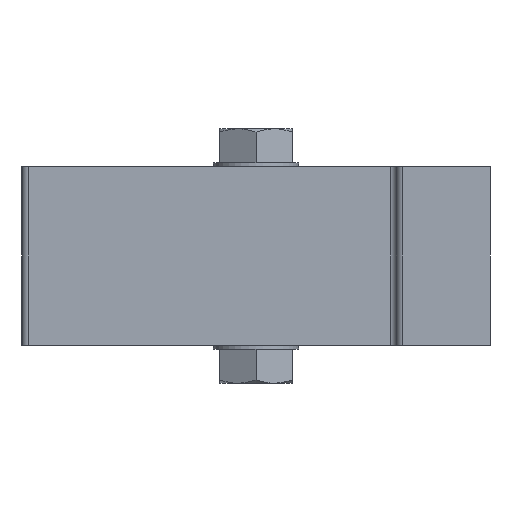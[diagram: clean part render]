
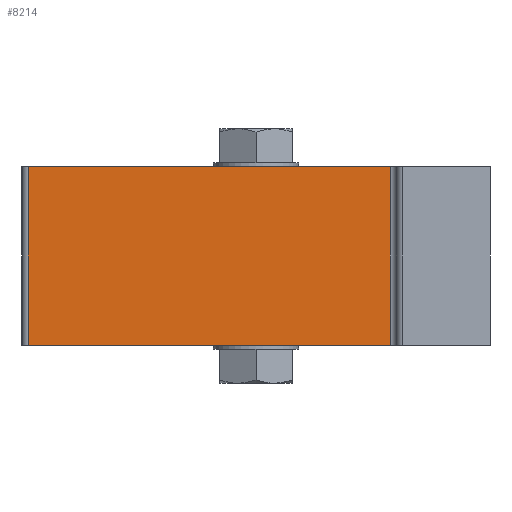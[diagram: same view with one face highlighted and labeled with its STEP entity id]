
A CAD part, left-side view. The second image highlights one B-rep face of the part: STEP entity #8214.
In plain terms, the highlighted planar face has unit normal (-1, 0, 0).
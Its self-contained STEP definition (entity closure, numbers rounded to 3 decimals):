
#6999=CARTESIAN_POINT('',(-55.,53.5,42.0));
#7000=VERTEX_POINT('',#6999);
#7008=CARTESIAN_POINT('',(-55.0,-31.5,42.0));
#7009=VERTEX_POINT('',#7008);
#7010=CARTESIAN_POINT('',(-55.0,-31.5,42.0));
#7011=DIRECTION('',(0.0,1.0,0.0));
#7012=VECTOR('',#7011,85.0);
#7013=LINE('',#7010,#7012);
#7014=EDGE_CURVE('',#7009,#7000,#7013,.T.);
#8172=CARTESIAN_POINT('',(-55.0,-31.5,0.0));
#8173=VERTEX_POINT('',#8172);
#8174=CARTESIAN_POINT('',(-55.0,-31.5,0.0));
#8175=DIRECTION('',(0.0,0.0,1.0));
#8176=VECTOR('',#8175,42.0);
#8177=LINE('',#8174,#8176);
#8178=EDGE_CURVE('',#8173,#7009,#8177,.T.);
#8191=CARTESIAN_POINT('',(-55.0,-31.5,0.0));
#8192=DIRECTION('',(-1.0,0.0,0.0));
#8193=DIRECTION('',(0.0,0.0,1.0));
#8194=AXIS2_PLACEMENT_3D('',#8191,#8192,#8193);
#8195=PLANE('',#8194);
#8196=ORIENTED_EDGE('',*,*,#7014,.T.);
#8197=CARTESIAN_POINT('',(-55.,53.5,0.0));
#8198=VERTEX_POINT('',#8197);
#8199=CARTESIAN_POINT('',(-55.,53.5,0.0));
#8200=DIRECTION('',(0.0,0.0,1.0));
#8201=VECTOR('',#8200,42.0);
#8202=LINE('',#8199,#8201);
#8203=EDGE_CURVE('',#8198,#7000,#8202,.T.);
#8204=ORIENTED_EDGE('',*,*,#8203,.F.);
#8205=CARTESIAN_POINT('',(-55.0,-31.5,0.0));
#8206=DIRECTION('',(0.0,1.0,0.0));
#8207=VECTOR('',#8206,85.0);
#8208=LINE('',#8205,#8207);
#8209=EDGE_CURVE('',#8173,#8198,#8208,.T.);
#8210=ORIENTED_EDGE('',*,*,#8209,.F.);
#8211=ORIENTED_EDGE('',*,*,#8178,.T.);
#8212=EDGE_LOOP('',(#8196,#8204,#8210,#8211));
#8213=FACE_OUTER_BOUND('',#8212,.T.);
#8214=ADVANCED_FACE('',(#8213),#8195,.T.);
